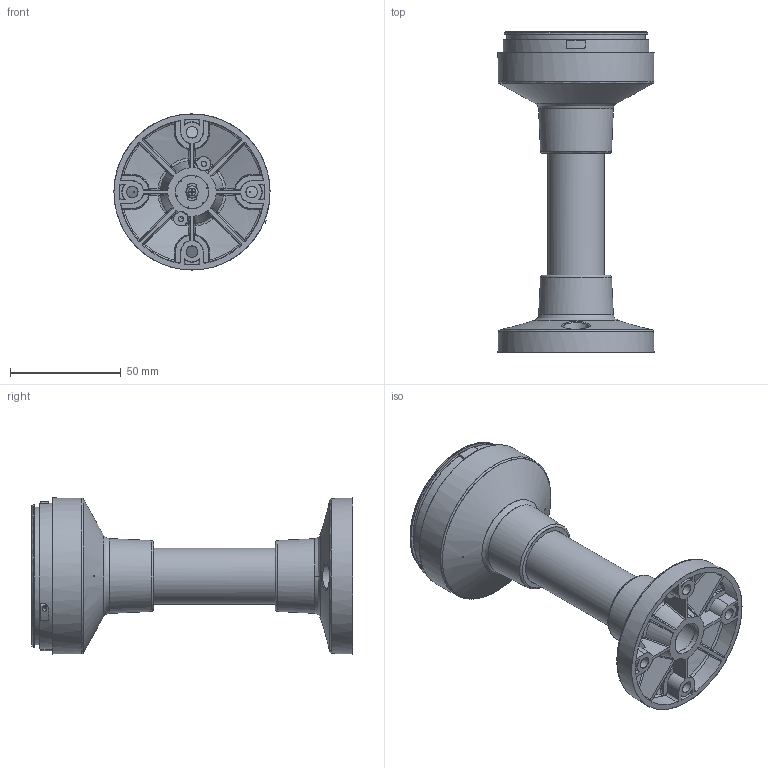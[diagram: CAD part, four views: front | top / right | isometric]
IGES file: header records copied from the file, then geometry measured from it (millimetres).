
Global section: file name: H:\lem\3DCAD_A7_V1_MP1_DS_ROG_T_100.igs; native system: NX V11.0; preprocessor: SIEMENS PLM Software NX 11.0; date: 20190826.125344; units: millimetre
Bounding box: 70.6 x 145.2 x 70.6 mm (x, y, z)
Surface area: 68640.1 mm2 (no closed solid volume)
Topology: 0 solids, 0 shells, 1352 faces, 8519 edges, 8488 vertices
Faces by surface type: bspline 1352
